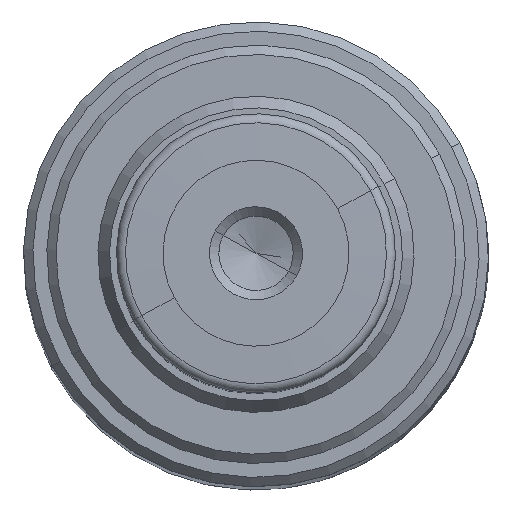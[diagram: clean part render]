
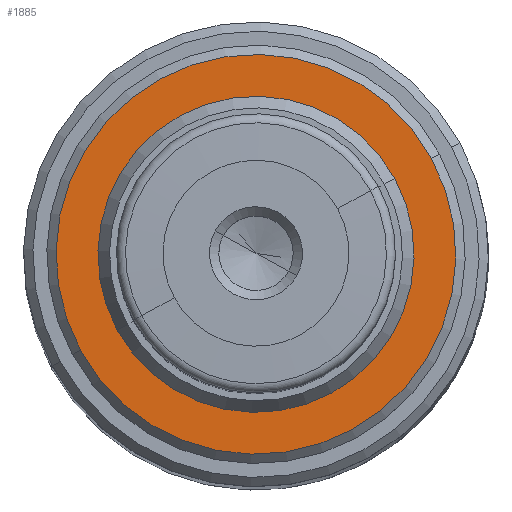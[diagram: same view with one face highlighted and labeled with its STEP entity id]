
A CAD part, top view. The second image highlights one B-rep face of the part: STEP entity #1885.
In plain terms, the highlighted planar face has unit normal (0, 0, 1).
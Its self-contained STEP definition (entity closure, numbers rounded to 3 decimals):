
#1719=CARTESIAN_POINT('Vertex',(14.919,8.15,203.8)) ;
#1722=CARTESIAN_POINT('Axis2P3D Location',(0.,0.,203.8)) ;
#1726=CARTESIAN_POINT('Vertex',(-14.919,-8.15,203.8)) ;
#1746=CARTESIAN_POINT('Axis2P3D Location',(0.,0.,203.8)) ;
#1763=CARTESIAN_POINT('Axis2P3D Location',(0.,0.,203.8)) ;
#1767=CARTESIAN_POINT('Vertex',(18.868,10.308,203.8)) ;
#1769=CARTESIAN_POINT('Vertex',(-18.868,-10.308,203.8)) ;
#1798=CARTESIAN_POINT('Axis2P3D Location',(0.,0.,203.8)) ;
#1872=CARTESIAN_POINT('Axis2P3D Location',(17.,0.,203.8)) ;
#1723=DIRECTION('Axis2P3D Direction',(0.,0.,-1.)) ;
#1747=DIRECTION('Axis2P3D Direction',(0.,0.,-1.)) ;
#1764=DIRECTION('Axis2P3D Direction',(0.,0.,-1.)) ;
#1799=DIRECTION('Axis2P3D Direction',(0.,0.,-1.)) ;
#1873=DIRECTION('Axis2P3D Direction',(0.,0.,1.)) ;
#1874=DIRECTION('Axis2P3D XDirection',(1.,0.,0.)) ;
#1724=AXIS2_PLACEMENT_3D('Circle Axis2P3D',#1722,#1723,$) ;
#1748=AXIS2_PLACEMENT_3D('Circle Axis2P3D',#1746,#1747,$) ;
#1765=AXIS2_PLACEMENT_3D('Circle Axis2P3D',#1763,#1764,$) ;
#1800=AXIS2_PLACEMENT_3D('Circle Axis2P3D',#1798,#1799,$) ;
#1875=AXIS2_PLACEMENT_3D('Plane Axis2P3D',#1872,#1873,#1874) ;
#1878=ORIENTED_EDGE('',*,*,#1802,.T.) ;
#1879=ORIENTED_EDGE('',*,*,#1771,.T.) ;
#1882=ORIENTED_EDGE('',*,*,#1728,.F.) ;
#1883=ORIENTED_EDGE('',*,*,#1750,.F.) ;
#1884=FACE_BOUND('',#1881,.T.) ;
#1885=ADVANCED_FACE('',(#1880,#1884),#1876,.T.) ;
#1725=CIRCLE('generated circle',#1724,17.) ;
#1749=CIRCLE('generated circle',#1748,17.) ;
#1766=CIRCLE('generated circle',#1765,21.5) ;
#1801=CIRCLE('generated circle',#1800,21.5) ;
#1728=EDGE_CURVE('',#1720,#1727,#1725,.F.) ;
#1750=EDGE_CURVE('',#1727,#1720,#1749,.F.) ;
#1771=EDGE_CURVE('',#1768,#1770,#1766,.F.) ;
#1802=EDGE_CURVE('',#1770,#1768,#1801,.F.) ;
#1877=EDGE_LOOP('',(#1878,#1879)) ;
#1881=EDGE_LOOP('',(#1882,#1883)) ;
#1880=FACE_OUTER_BOUND('',#1877,.T.) ;
#1876=PLANE('Plane',#1875) ;
#1720=VERTEX_POINT('',#1719) ;
#1727=VERTEX_POINT('',#1726) ;
#1768=VERTEX_POINT('',#1767) ;
#1770=VERTEX_POINT('',#1769) ;
